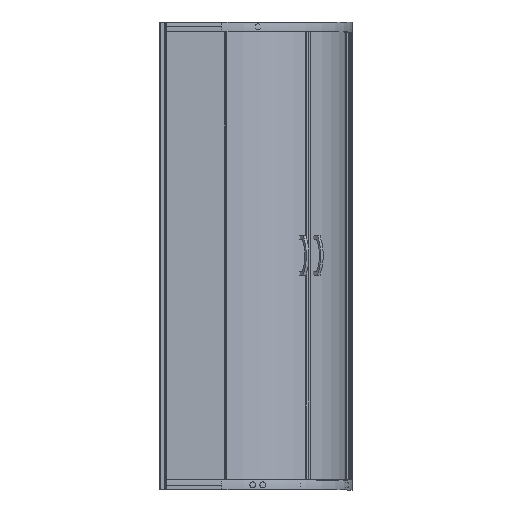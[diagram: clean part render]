
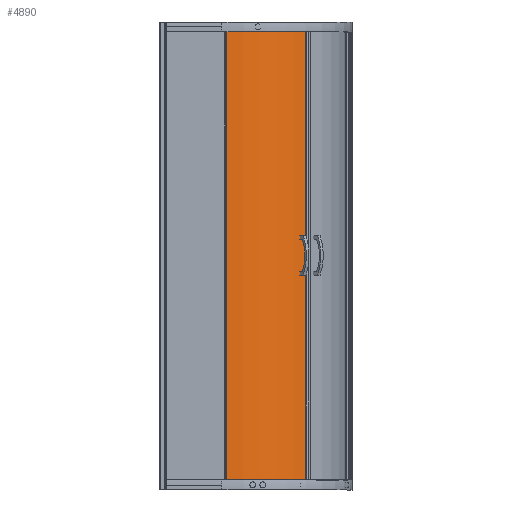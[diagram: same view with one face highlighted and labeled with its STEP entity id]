
A CAD part, top view. The second image highlights one B-rep face of the part: STEP entity #4890.
In plain terms, the highlighted cylindrical face has radius 500.5 mm (diameter 1001 mm), a partial arc.
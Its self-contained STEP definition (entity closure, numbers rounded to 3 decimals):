
#570 = EDGE_CURVE ( 'NONE', #7243, #13282, #6586, .T. ) ;
#1329 = AXIS2_PLACEMENT_3D ( 'NONE', #7137, #12740, #12840 ) ;
#1573 = EDGE_CURVE ( 'NONE', #2051, #13282, #2548, .T. ) ;
#1648 = VERTEX_POINT ( 'NONE', #12695 ) ;
#2051 = VERTEX_POINT ( 'NONE', #3839 ) ;
#2052 = CARTESIAN_POINT ( 'NONE',  ( 263.97, 15., -25.831 ) ) ;
#2548 = CIRCLE ( 'NONE', #1329, 500.5 ) ;
#3347 = DIRECTION ( 'NONE',  ( 0., 0., -1. ) ) ;
#3409 = DIRECTION ( 'NONE',  ( 0., -1., 0. ) ) ;
#3795 = FACE_OUTER_BOUND ( 'NONE', #7585, .T. ) ;
#3839 = CARTESIAN_POINT ( 'NONE',  ( 596.649, 15., -171.973 ) ) ;
#3999 = AXIS2_PLACEMENT_3D ( 'NONE', #6516, #8661, #3347 ) ;
#4890 = ADVANCED_FACE ( 'NONE', ( #3795 ), #9129, .T. ) ;
#4944 = ORIENTED_EDGE ( 'NONE', *, *, #5486, .F. ) ;
#5486 = EDGE_CURVE ( 'NONE', #1648, #2051, #7129, .T. ) ;
#5888 = VECTOR ( 'NONE', #7275, 1000. ) ;
#6516 = CARTESIAN_POINT ( 'NONE',  ( 242.742, 1889., -525.88 ) ) ;
#6586 = LINE ( 'NONE', #9329, #5888 ) ;
#6668 = DIRECTION ( 'NONE',  ( 0., 0., -1. ) ) ;
#6929 = CIRCLE ( 'NONE', #3999, 500.5 ) ;
#7129 = LINE ( 'NONE', #13278, #8974 ) ;
#7137 = CARTESIAN_POINT ( 'NONE',  ( 242.742, 15., -525.88 ) ) ;
#7243 = VERTEX_POINT ( 'NONE', #10541 ) ;
#7275 = DIRECTION ( 'NONE',  ( 0., -1., 0. ) ) ;
#7545 = CARTESIAN_POINT ( 'NONE',  ( 242.742, 1889., -525.88 ) ) ;
#7585 = EDGE_LOOP ( 'NONE', ( #11545, #4944, #9090, #7802 ) ) ;
#7802 = ORIENTED_EDGE ( 'NONE', *, *, #570, .T. ) ;
#8661 = DIRECTION ( 'NONE',  ( 0., -1., 0. ) ) ;
#8753 = DIRECTION ( 'NONE',  ( 0., -1., 0. ) ) ;
#8974 = VECTOR ( 'NONE', #8753, 1000. ) ;
#9090 = ORIENTED_EDGE ( 'NONE', *, *, #9519, .T. ) ;
#9129 = CYLINDRICAL_SURFACE ( 'NONE', #9686, 500.5 ) ;
#9329 = CARTESIAN_POINT ( 'NONE',  ( 263.97, 1889., -25.831 ) ) ;
#9519 = EDGE_CURVE ( 'NONE', #1648, #7243, #6929, .T. ) ;
#9686 = AXIS2_PLACEMENT_3D ( 'NONE', #7545, #3409, #6668 ) ;
#10541 = CARTESIAN_POINT ( 'NONE',  ( 263.97, 1889., -25.831 ) ) ;
#11545 = ORIENTED_EDGE ( 'NONE', *, *, #1573, .F. ) ;
#12695 = CARTESIAN_POINT ( 'NONE',  ( 596.649, 1889., -171.973 ) ) ;
#12740 = DIRECTION ( 'NONE',  ( 0., -1., 0. ) ) ;
#12840 = DIRECTION ( 'NONE',  ( 0., 0., -1. ) ) ;
#13278 = CARTESIAN_POINT ( 'NONE',  ( 596.649, 1889., -171.973 ) ) ;
#13282 = VERTEX_POINT ( 'NONE', #2052 ) ;
